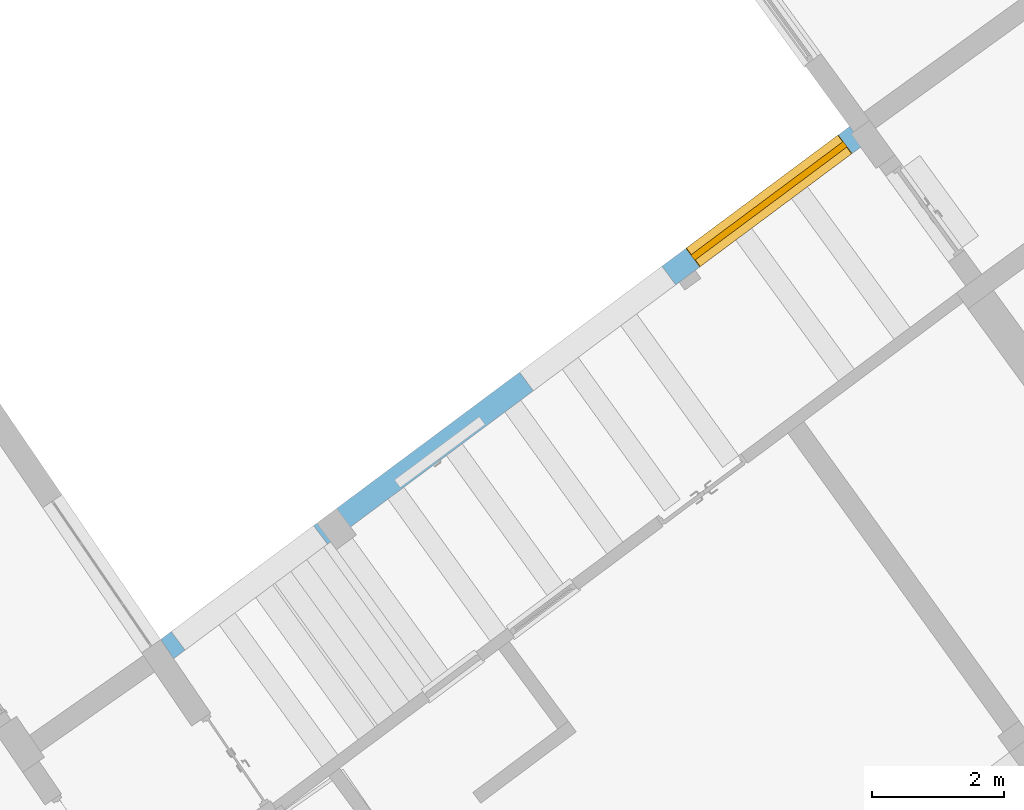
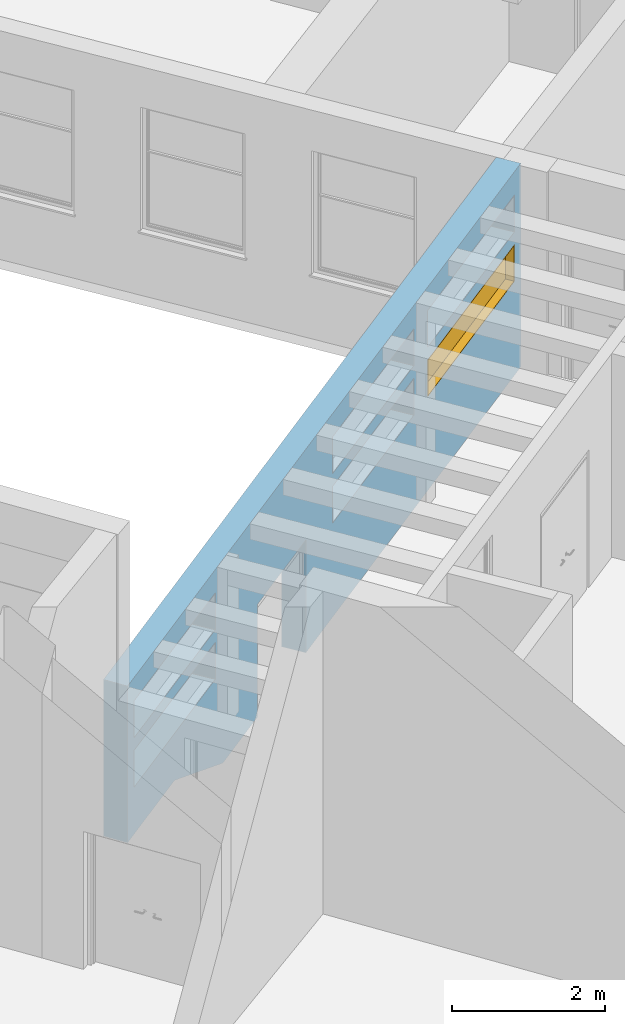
# One storey, part 141 of 157: 1 window, 7 openings, plus 1 element that does not belong to this part.
"""IFC2X3 building model written with IfcOpenShell, lengths in millimetres."""

import ifcopenshell
import ifcopenshell.guid

model = None  # the IFC model being written
_history = None  # IfcOwnerHistory: only IFC2X3 demands one
_inside = {}  # id of a spatial element -> (the spatial element, [elements in it])
_under = {}  # id of a project, library or spatial element -> (it, [spatial elements below it])
_declared = {}  # id of a project -> (the project, [libraries it declares])
_typed = {}  # id of a type object -> (the type object, [elements of that type])
_made_of = {}  # id of a material, layer set ... -> (it, [elements and type objects made of it])


def new_model(schema):
    """Start an empty IFC model of exactly this schema.

    Asked for "IFC4X3", IfcOpenShell would pick the latest addendum, in which some entities
    have other attributes; the version numbers below select the first issue.
    IFC2X3 requires an IfcOwnerHistory on every rooted entity: one is made here for all.
    """
    global model, _history
    if schema == "IFC4X3":
        model = ifcopenshell.file(schema_version=(4, 3, 0, 0))
    else:
        model = ifcopenshell.file(schema=schema)
    _inside.clear()
    _under.clear()
    _declared.clear()
    _typed.clear()
    _made_of.clear()
    _history = None
    if model.schema == "IFC2X3":
        org = make("IfcOrganization", Name="unknown")
        user = make(
            "IfcPersonAndOrganization",
            ThePerson=make("IfcPerson", FamilyName="unknown"),
            TheOrganization=org,
        )
        app = make(
            "IfcApplication",
            ApplicationDeveloper=org,
            Version="unknown",
            ApplicationFullName="unknown",
            ApplicationIdentifier="unknown",
        )
        _history = make(
            "IfcOwnerHistory",
            OwningUser=user,
            OwningApplication=app,
            ChangeAction="ADDED",
            CreationDate=0,
        )
    return model


def make(cls, **values):
    """One entity of the class cls with the attributes given. An attribute that is None is left unset."""
    return model.create_entity(
        cls, **{name: value for name, value in values.items() if value is not None}
    )


def entity(cls, *values):
    """Any entity or typed value of the class cls, its attributes in the order of the schema. None: left unset."""
    e = model.create_entity(cls)
    for i, value in enumerate(values):
        if value is not None:
            e[i] = value
    return e


def rooted(cls, **values):
    """An entity with a GlobalId (a new one), such as an element, a storey or a relation."""
    return make(cls, GlobalId=ifcopenshell.guid.new(), OwnerHistory=_history, **values)


def si_unit(unit_type, name, prefix=None):
    """IfcSIUnit, for example si_unit("LENGTHUNIT", "METRE", prefix="MILLI")."""
    return make("IfcSIUnit", UnitType=unit_type, Prefix=prefix, Name=name)


def converted_unit(unit_type, name, factor, base, dimensions=None, offset=None):
    """IfcConversionBasedUnit, such as the inch: factor (a typed value) times the base unit."""
    return make(
        "IfcConversionBasedUnit"
        if offset is None
        else "IfcConversionBasedUnitWithOffset",
        ConversionOffset=offset,
        Dimensions=None
        if dimensions is None
        else entity("IfcDimensionalExponents", *dimensions),
        UnitType=unit_type,
        Name=name,
        ConversionFactor=make(
            "IfcMeasureWithUnit", ValueComponent=factor, UnitComponent=base
        ),
    )


def derived_unit(unit_type, elements):
    """IfcDerivedUnit: a product of units, each with its exponent."""
    return make(
        "IfcDerivedUnit",
        Elements=[
            make("IfcDerivedUnitElement", Unit=unit, Exponent=power)
            for unit, power in elements
        ],
        UnitType=unit_type,
    )


def assignment(units):
    """IfcUnitAssignment: the units of a project."""
    return None if units is None else make("IfcUnitAssignment", Units=units)


def point(xyz):
    """IfcCartesianPoint."""
    return None if xyz is None else make("IfcCartesianPoint", Coordinates=xyz)


def direction(xyz):
    """IfcDirection."""
    return None if xyz is None else make("IfcDirection", DirectionRatios=xyz)


def frame(location, z_axis=None, x_axis=None):
    """IfcAxis2Placement3D, a coordinate frame: its origin and axes. An axis left out is left unset."""
    return make(
        "IfcAxis2Placement3D",
        Location=point(location),
        Axis=direction(z_axis),
        RefDirection=direction(x_axis),
    )


def frame_2d(location, x_axis=None):
    """IfcAxis2Placement2D, a coordinate frame in the plane: its origin and x axis."""
    return make(
        "IfcAxis2Placement2D", Location=point(location), RefDirection=direction(x_axis)
    )


def origin():
    """The frame at (0, 0, 0) with its axes left unset."""
    return frame((0.0, 0.0, 0.0))


def origin_2d_with_axis():
    """The frame at (0, 0) in the plane with the x axis (1, 0) written out."""
    return frame_2d((0.0, 0.0), x_axis=(1.0, 0.0))


def place(relative_to, where):
    """IfcLocalPlacement: puts the frame where relative to a parent placement (None: the world)."""
    return make(
        "IfcLocalPlacement", PlacementRelTo=relative_to, RelativePlacement=where
    )


def context(
    kind, dimensions, precision=None, world=None, true_north=None, identifier=None
):
    """IfcGeometricRepresentationContext, for example the 3D "Model" context."""
    return make(
        "IfcGeometricRepresentationContext",
        ContextIdentifier=identifier,
        ContextType=kind,
        CoordinateSpaceDimension=dimensions,
        Precision=precision,
        WorldCoordinateSystem=world,
        TrueNorth=true_north,
    )


def subcontext(parent, identifier, kind, view, scale=None):
    """IfcGeometricRepresentationSubContext, for example "Body" below "Model"."""
    return make(
        "IfcGeometricRepresentationSubContext",
        ContextIdentifier=identifier,
        ContextType=kind,
        ParentContext=parent,
        TargetScale=scale,
        TargetView=view,
    )


def project(units=None, contexts=None):
    """IfcProject with its units and contexts."""
    return rooted(
        "IfcProject",
        Name="project",
        RepresentationContexts=contexts,
        UnitsInContext=assignment(units),
    )


def spatial(cls, under=None, at=None, **own):
    """A site, building, storey or space (cls), placed at a placement, below another one or the project."""
    s = rooted(cls, ObjectPlacement=at, **own)
    if under is not None:
        _under.setdefault(under.id(), (under, []))[1].append(s)
    return s


def polyline(points):
    """IfcPolyline through the points."""
    return make("IfcPolyline", Points=[point(p) for p in points])


def profile(cls, at=None, kind="AREA", **sizes):
    """A parametric profile (cls). Its sizes go by their IFC names, for example OverallWidth=200.0."""
    return make(cls, ProfileType=kind, Position=at, **sizes)


def rectangle(**sizes):
    """IfcRectangleProfileDef."""
    return profile("IfcRectangleProfileDef", **sizes)


def outline(outer, holes=None, kind="AREA"):
    """IfcArbitraryClosedProfileDef: a profile drawn as a closed curve; with holes, ...WithVoids."""
    if holes is None:
        return make("IfcArbitraryClosedProfileDef", ProfileType=kind, OuterCurve=outer)
    return make(
        "IfcArbitraryProfileDefWithVoids",
        ProfileType=kind,
        OuterCurve=outer,
        InnerCurves=holes,
    )


def extrude(swept, where, along, depth):
    """IfcExtrudedAreaSolid: the profile swept, set in the frame where, extruded along a direction by depth."""
    return make(
        "IfcExtrudedAreaSolid",
        SweptArea=swept,
        Position=where,
        ExtrudedDirection=direction(along),
        Depth=depth,
    )


def faces_of(points, faces, orient=None, outer=None):
    """IfcFace entities. A face is a list of loops; a loop is a list of indices into points, from 0.

    orient and outer hold one flag for each loop. By default every Orientation is true, the
    first loop of a face is its IfcFaceOuterBound and the others are IfcFaceBound.
    """
    made = []
    for i, loops in enumerate(faces):
        bounds = []
        for j, loop in enumerate(loops):
            is_outer = j == 0 if outer is None else outer[i][j]
            bounds.append(
                make(
                    "IfcFaceOuterBound" if is_outer else "IfcFaceBound",
                    Bound=make("IfcPolyLoop", Polygon=[points[k] for k in loop]),
                    Orientation=True if orient is None else orient[i][j],
                )
            )
        made.append(make("IfcFace", Bounds=bounds))
    return made


def faceted_brep(points, faces, orient=None, outer=None, voids=None):
    """IfcFacetedBrep: a solid bounded by flat faces; with voids (closed shells), ...WithVoids."""
    shared = [point(p) for p in points]
    hull = make("IfcClosedShell", CfsFaces=faces_of(shared, faces, orient, outer))
    if voids is None:
        return make("IfcFacetedBrep", Outer=hull)
    return make(
        "IfcFacetedBrepWithVoids",
        Outer=hull,
        Voids=[
            make(cls, CfsFaces=faces_of(shared, fs, o, b)) for cls, fs, o, b in voids
        ],
    )


def shape(context_of_items, identifier, shape_type, items):
    """IfcShapeRepresentation: the items that make up one representation, for example the "Body"."""
    return make(
        "IfcShapeRepresentation",
        ContextOfItems=context_of_items,
        RepresentationIdentifier=identifier,
        RepresentationType=shape_type,
        Items=items,
    )


def source(mapping_origin, context_of_items, identifier, shape_type, items):
    """IfcRepresentationMap: a shape defined once, which mapped items show again and again."""
    return make(
        "IfcRepresentationMap",
        MappingOrigin=mapping_origin,
        MappedRepresentation=shape(context_of_items, identifier, shape_type, items),
    )


def transform(
    local_origin,
    x_axis=None,
    y_axis=None,
    z_axis=None,
    scale=None,
    scale2=None,
    scale3=None,
    uniform=True,
):
    """IfcCartesianTransformationOperator3D, or its non-uniform kind. x_axis, y_axis, z_axis: its Axis1, 2, 3."""
    if uniform:
        return make(
            "IfcCartesianTransformationOperator3D",
            Axis1=direction(x_axis),
            Axis2=direction(y_axis),
            LocalOrigin=point(local_origin),
            Scale=scale,
            Axis3=direction(z_axis),
        )
    return make(
        "IfcCartesianTransformationOperator3DnonUniform",
        Axis1=direction(x_axis),
        Axis2=direction(y_axis),
        LocalOrigin=point(local_origin),
        Scale=scale,
        Axis3=direction(z_axis),
        Scale2=scale2,
        Scale3=scale3,
    )


def mapped(mapping_source, mapping_target):
    """IfcMappedItem: shows the shape of a source again, moved by a transform."""
    return make(
        "IfcMappedItem", MappingSource=mapping_source, MappingTarget=mapping_target
    )


def material(Name=None, Category=None):
    """IfcMaterial."""
    return make("IfcMaterial", Name=Name, Category=Category)


def material_list(materials):
    """IfcMaterialList."""
    return make("IfcMaterialList", Materials=materials)


def layer(
    of_material, thickness, ventilated=None, Name=None, Category=None, Priority=None
):
    """IfcMaterialLayer: one layer of a wall or slab, of a material (None: an air gap)."""
    return make(
        "IfcMaterialLayer",
        Material=of_material,
        LayerThickness=thickness,
        IsVentilated=ventilated,
        Name=Name,
        Category=Category,
        Priority=Priority,
    )


def layer_set(layers, Name=None):
    """IfcMaterialLayerSet."""
    return make("IfcMaterialLayerSet", MaterialLayers=layers, LayerSetName=Name)


def made_of(thing, what):
    """Note that an element or type object is made of a material, layer set ...; save() writes the relation."""
    if what is not None:
        _made_of.setdefault(what.id(), (what, []))[1].append(thing)
    return thing


def type_object(cls, material=None, **own):
    """A type object (cls), such as IfcWallType, which elements share."""
    return made_of(rooted(cls, **own), material)


def type_shapes(of_type, sources):
    """Give a type object the sources (RepresentationMaps) that its elements show as mapped items."""
    of_type.RepresentationMaps = sources


def element(
    cls,
    number,
    at=None,
    inside=None,
    cuts=None,
    type_object=None,
    material=None,
    context=None,
    identifier="Body",
    shape_type=None,
    held_by="IfcProductDefinitionShape",
    body=None,
    shapes=None,
    **own,
):
    """One element of the class cls, such as IfcWall. Its Tag is "e" and its number.

    at: its placement. inside: the storey or other place that contains it. cuts: it is an
    opening in that element (IfcRelVoidsElement). A single representation is given by context,
    identifier, shape_type and body (its items); several are given by shapes. held_by: the class
    of the entity that holds the representations. save() writes the other relations.
    """
    e = rooted(cls, Tag="e%d" % number, ObjectPlacement=at, **own)
    if body is not None:
        shapes = [shape(context, identifier, shape_type, body)]
    if shapes is not None:
        e.Representation = make(held_by, Representations=shapes)
    if inside is not None:
        _inside.setdefault(inside.id(), (inside, []))[1].append(e)
    if cuts is not None:
        rooted(
            "IfcRelVoidsElement", RelatingBuildingElement=cuts, RelatedOpeningElement=e
        )
    if type_object is not None:
        _typed.setdefault(type_object.id(), (type_object, []))[1].append(e)
    return made_of(e, material)


def fill(opening, filler):
    """IfcRelFillsElement: the door or window that sits in an opening."""
    return rooted(
        "IfcRelFillsElement",
        RelatingOpeningElement=opening,
        RelatedBuildingElement=filler,
    )


def aggregate(whole, parts):
    """IfcRelAggregates: a whole, such as a stair, and the parts it consists of."""
    return rooted("IfcRelAggregates", RelatingObject=whole, RelatedObjects=parts)


def save(model, path):
    """Write the relations noted so far, then the file.

    IfcRelAggregates (storeys below a building ...), IfcRelContainedInSpatialStructure (elements
    in a storey), IfcRelDefinesByType, IfcRelAssociatesMaterial and IfcRelDeclares: one each for
    every whole, place, type object, material and project.
    """
    for whole, parts in _under.values():
        aggregate(whole, parts)
    for where, things in _inside.values():
        rooted(
            "IfcRelContainedInSpatialStructure",
            RelatedElements=things,
            RelatingStructure=where,
        )
    for kind, things in _typed.values():
        rooted("IfcRelDefinesByType", RelatedObjects=things, RelatingType=kind)
    for what, things in _made_of.values():
        rooted("IfcRelAssociatesMaterial", RelatedObjects=things, RelatingMaterial=what)
    for by, libraries in _declared.values():
        rooted("IfcRelDeclares", RelatingContext=by, RelatedDefinitions=libraries)
    model.write(path)


model = new_model("IFC2X3")

# Units and contexts
model_context = context("Model", 3, precision=0.01, world=origin(), true_north=direction((6.123031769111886e-17, 1.0)))
body_context = subcontext(model_context, "Body", "Model", "MODEL_VIEW")
ifc_project = project(units=[si_unit("LENGTHUNIT", "METRE", prefix="MILLI"), si_unit("AREAUNIT", "SQUARE_METRE"), si_unit("VOLUMEUNIT", "CUBIC_METRE"), converted_unit("PLANEANGLEUNIT", "DEGREE", entity("IfcRatioMeasure", 0.017453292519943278), si_unit("PLANEANGLEUNIT", "RADIAN"), dimensions=[0, 0, 0, 0, 0, 0, 0]), si_unit("MASSUNIT", "GRAM", prefix="KILO"), derived_unit("MASSDENSITYUNIT", [(si_unit("MASSUNIT", "GRAM", prefix="KILO"), 1), (si_unit("LENGTHUNIT", "METRE"), -3)]), derived_unit("MOMENTOFINERTIAUNIT", [(si_unit("LENGTHUNIT", "METRE"), 4)]), si_unit("TIMEUNIT", "SECOND"), si_unit("FREQUENCYUNIT", "HERTZ"), si_unit("THERMODYNAMICTEMPERATUREUNIT", "DEGREE_CELSIUS"), derived_unit("THERMALTRANSMITTANCEUNIT", [(si_unit("MASSUNIT", "GRAM", prefix="KILO"), 1), (si_unit("THERMODYNAMICTEMPERATUREUNIT", "KELVIN"), -1), (si_unit("TIMEUNIT", "SECOND"), -3)]), derived_unit("THERMALCONDUCTANCEUNIT", [(si_unit("MASSUNIT", "GRAM", prefix="KILO"), 1), (si_unit("LENGTHUNIT", "METRE"), 1), (si_unit("THERMODYNAMICTEMPERATUREUNIT", "KELVIN"), -1), (si_unit("TIMEUNIT", "SECOND"), -3)]), derived_unit("VOLUMETRICFLOWRATEUNIT", [(si_unit("LENGTHUNIT", "METRE"), 3), (si_unit("TIMEUNIT", "SECOND"), -1)]), derived_unit("MASSFLOWRATEUNIT", [(si_unit("MASSUNIT", "GRAM", prefix="KILO"), 1), (si_unit("TIMEUNIT", "SECOND"), -1)]), derived_unit("ROTATIONALFREQUENCYUNIT", [(si_unit("TIMEUNIT", "SECOND"), -1)]), si_unit("ELECTRICCURRENTUNIT", "AMPERE"), si_unit("ELECTRICVOLTAGEUNIT", "VOLT"), si_unit("POWERUNIT", "WATT"), converted_unit("FORCEUNIT", "KIP", entity("IfcRatioMeasure", 2.088543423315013e-05), si_unit("FORCEUNIT", "NEWTON"), dimensions=[1, 1, -2, 0, 0, 0, 0]), si_unit("ILLUMINANCEUNIT", "LUX"), si_unit("LUMINOUSFLUXUNIT", "LUMEN"), si_unit("LUMINOUSINTENSITYUNIT", "CANDELA"), derived_unit("USERDEFINED", [(si_unit("MASSUNIT", "GRAM", prefix="KILO"), -1), (si_unit("LENGTHUNIT", "METRE"), -2), (si_unit("TIMEUNIT", "SECOND"), 3), (si_unit("LUMINOUSFLUXUNIT", "LUMEN"), 1)]), derived_unit("USERDEFINED", [(si_unit("MASSUNIT", "GRAM", prefix="KILO"), 1), (si_unit("LENGTHUNIT", "METRE"), 3), (si_unit("TIMEUNIT", "SECOND"), -3), (si_unit("ELECTRICCURRENTUNIT", "AMPERE"), -2)]), derived_unit("USERDEFINED", [(si_unit("LENGTHUNIT", "METRE"), 2), (si_unit("TIMEUNIT", "SECOND"), -2)]), derived_unit("SOUNDPOWERUNIT", [(si_unit("MASSUNIT", "GRAM", prefix="KILO"), 1), (si_unit("LENGTHUNIT", "METRE"), 2), (si_unit("TIMEUNIT", "SECOND"), -3)]), derived_unit("SOUNDPRESSUREUNIT", [(si_unit("MASSUNIT", "GRAM", prefix="KILO"), 1), (si_unit("LENGTHUNIT", "METRE"), -1), (si_unit("TIMEUNIT", "SECOND"), -2)]), derived_unit("LINEARVELOCITYUNIT", [(si_unit("LENGTHUNIT", "METRE"), 1), (si_unit("TIMEUNIT", "SECOND"), -1)]), si_unit("PRESSUREUNIT", "PASCAL"), derived_unit("USERDEFINED", [(si_unit("LENGTHUNIT", "METRE"), -2), (si_unit("MASSUNIT", "GRAM", prefix="KILO"), 1), (si_unit("TIMEUNIT", "SECOND"), -2)]), derived_unit("LINEARFORCEUNIT", [(si_unit("MASSUNIT", "GRAM", prefix="KILO"), 1), (si_unit("LENGTHUNIT", "METRE"), 1), (si_unit("TIMEUNIT", "SECOND"), -2), (si_unit("LENGTHUNIT", "METRE"), -1)]), derived_unit("PLANARFORCEUNIT", [(si_unit("MASSUNIT", "GRAM", prefix="KILO"), 1), (si_unit("LENGTHUNIT", "METRE"), 1), (si_unit("TIMEUNIT", "SECOND"), -2), (si_unit("LENGTHUNIT", "METRE"), -2)]), derived_unit("SPECIFICHEATCAPACITYUNIT", [(si_unit("LENGTHUNIT", "METRE"), 2), (si_unit("TIMEUNIT", "SECOND"), -2), (si_unit("THERMODYNAMICTEMPERATUREUNIT", "KELVIN"), -1)]), derived_unit("VAPORPERMEABILITYUNIT", [(si_unit("TIMEUNIT", "SECOND"), 1), (si_unit("LENGTHUNIT", "METRE"), -1)]), derived_unit("DYNAMICVISCOSITYUNIT", [(si_unit("MASSUNIT", "GRAM", prefix="KILO"), 1), (si_unit("LENGTHUNIT", "METRE"), -1), (si_unit("TIMEUNIT", "SECOND"), -1)]), derived_unit("THERMALEXPANSIONCOEFFICIENTUNIT", [(si_unit("THERMODYNAMICTEMPERATUREUNIT", "KELVIN"), -1)])], contexts=[model_context])

# Site, building, storey
site_placement = place(None, frame((0.0, 0.0, 0.0), z_axis=(0.0, 0.0, 1.0), x_axis=(0.8191520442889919, 0.5735764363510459, 0.0)))
site = spatial("IfcSite", under=ifc_project, at=site_placement, Name="Default", CompositionType="ELEMENT")
building_placement = place(site_placement, origin())
building = spatial("IfcBuilding", under=site, at=building_placement, CompositionType="ELEMENT")
storey_placement = place(building_placement, origin())
storey = spatial("IfcBuildingStorey", under=building, at=storey_placement, Name="1.EG +0.00", CompositionType="ELEMENT", Elevation=-4.331468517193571e-12)

# Wall, openings, window
ifc_material_1 = material(Name="Analytical Wall Surface_CJC")
ifc_layer = layer(ifc_material_1, 350.0)
ifc_layer_set = layer_set([ifc_layer], Name="Basic Wall:Wand_Innen_35")
wall_type = type_object("IfcWallType", Name="Basic Wall:Wand_Innen_35", PredefinedType="STANDARD", material=ifc_layer_set)
wall_placement = place(storey_placement, frame((-204101.05348576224, 166996.005670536, -750.0), z_axis=(0.0, 0.0, 1.0), x_axis=(0.9995749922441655, 0.029151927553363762, 0.0)))
wall = element("IfcWall", 1, at=wall_placement, inside=storey, type_object=wall_type, Name="Basic Wall:Wand_Innen_35", ObjectType="Basic Wall:Wand_Innen_35", context=body_context, shape_type="Brep", body=[
    faceted_brep([(12984.138347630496, -175.0, 0.0), (12984.138347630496, -175.0, 3250.0), (11930.363742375, -175.0, 3250.0), (11630.346839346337, -175.0, 3250.0), (10880.30458177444, -175.0, 3250.0), (10580.287678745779, -175.0, 3250.0), (9815.893972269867, -175.0, 3250.0), (9515.854710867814, -175.0, 3250.0), (8715.750013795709, -175.0, 3250.0), (8415.710752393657, -175.0, 3250.0), (7615.606055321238, -175.0, 3250.0), (7315.566793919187, -175.0, 3250.0), (6533.797199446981, -175.0, 3250.0), (6233.757938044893, -175.0, 3250.0), (5433.653240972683, -175.0, 3250.0), (5133.613979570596, -175.0, 3250.0), (4333.509282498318, -175.0, 3250.0), (4033.4700210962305, -175.0, 3250.0), (3255.528447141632, -175.0, 3250.0), (2955.5004618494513, -175.0, 3250.0), (2205.5288961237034, -175.0, 3250.0), (1905.500757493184, -175.0, 3250.0), (1155.3068251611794, -175.0, 3250.0), (855.2816970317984, -175.0, 3250.0), (0.0, -175.0, 3250.0), (0.0, -175.0, 750.0), (1550.1638463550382, -175.0, 750.0), (3145.5153249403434, -175.0, 0.0), (4284.138347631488, -175.0, 0.0), (4284.138347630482, -175.0, 1800.0), (5884.138347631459, -175.0, 1800.0), (5884.138347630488, -175.0, 0.0), (9515.854710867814, -175.0, 0.0), (9815.893972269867, -175.0, 0.0), (2895.1186250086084, -175.0, 2090.0), (2895.1186250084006, -175.0, 1500.0), (215.11862500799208, -175.0, 1500.0), (215.11862500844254, -175.0, 2090.0), (9451.157462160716, -175.0, 2090.0), (9451.157462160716, -175.0, 1500.0), (6771.157462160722, -175.0, 1500.0), (6771.157462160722, -175.0, 2090.0), (12771.942690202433, -175.0, 2090.0), (12771.942690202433, -175.0, 1500.0), (9901.942690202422, -175.0, 1500.0), (9901.942690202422, -175.0, 2090.0), (12771.942690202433, -175.0, 2880.0), (12771.942690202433, -175.0, 2290.0), (9901.942690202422, -175.0, 2290.0), (9901.942690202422, -175.0, 2880.0), (9451.157462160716, -175.0, 2880.0), (9451.157462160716, -175.0, 2290.0), (6771.157462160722, -175.0, 2290.0), (6771.157462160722, -175.0, 2880.0), (2895.1186250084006, -175.0, 2880.0), (2895.1186250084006, -175.0, 2290.0), (215.1186250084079, -175.0, 2290.0), (215.1186250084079, -175.0, 2880.0), (12984.138347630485, 175.0, 3250.0), (12984.138347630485, 175.0, 0.0), (5884.138347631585, 175.0, 0.0), (5884.138347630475, 175.0, 1800.0), (4284.138347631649, 175.0, 1800.0), (4284.13834763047, 175.0, 0.0), (3145.515324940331, 175.0, 0.0), (1550.1638463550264, 175.0, 750.0), (14.668675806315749, 175.0, 750.0), (14.668675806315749, 175.0, 3250.0), (2895.118625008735, 175.0, 1500.0), (2895.118625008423, 175.0, 2090.0), (215.11862500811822, 175.0, 2090.0), (215.1186250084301, 175.0, 1500.0), (9451.157462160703, 175.0, 1500.0), (9451.157462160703, 175.0, 2090.0), (6771.15746216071, 175.0, 2090.0), (6771.15746216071, 175.0, 1500.0), (12771.942690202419, 175.0, 1500.0), (12771.942690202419, 175.0, 2090.0), (9901.94269020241, 175.0, 2090.0), (9901.94269020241, 175.0, 1500.0), (12771.942690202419, 175.0, 2290.0), (12771.942690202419, 175.0, 2880.0), (9901.94269020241, 175.0, 2880.0), (9901.94269020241, 175.0, 2290.0), (9451.157462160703, 175.0, 2290.0), (9451.157462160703, 175.0, 2880.0), (6771.15746216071, 175.0, 2880.0), (6771.15746216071, 175.0, 2290.0), (2895.1186250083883, 175.0, 2290.0), (2895.1186250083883, 175.0, 2880.0), (215.11862500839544, 175.0, 2880.0), (215.11862500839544, 175.0, 2290.0)], [[[0, 1, 2, 3, 4, 5, 6, 7, 8, 9, 10, 11, 12, 13, 14, 15, 16, 17, 18, 19, 20, 21, 22, 23, 24, 25, 26, 27, 28, 29, 30, 31, 32, 33], [34, 35, 36, 37], [38, 39, 40, 41], [42, 43, 44, 45], [46, 47, 48, 49], [50, 51, 52, 53], [54, 55, 56, 57]], [[58, 59, 60, 61, 62, 63, 64, 65, 66, 67], [68, 69, 70, 71], [72, 73, 74, 75], [76, 77, 78, 79], [80, 81, 82, 83], [84, 85, 86, 87], [88, 89, 90, 91]], [[25, 24, 67, 66]], [[27, 64, 63, 28]], [[1, 0, 59, 58]], [[24, 23, 22, 21, 20, 19, 18, 17, 16, 15, 14, 13, 12, 11, 10, 9, 8, 7, 6, 5, 4, 3, 2, 1, 58, 67]], [[26, 25, 66, 65]], [[27, 26, 65, 64]], [[62, 29, 28, 63]], [[29, 62, 61, 30]], [[30, 61, 60, 31]], [[68, 35, 34, 69]], [[69, 34, 37, 70]], [[70, 37, 36, 71]], [[35, 68, 71, 36]], [[73, 72, 39, 38]], [[74, 73, 38, 41]], [[75, 74, 41, 40]], [[72, 75, 40, 39]], [[77, 76, 43, 42]], [[78, 77, 42, 45]], [[79, 78, 45, 44]], [[76, 79, 44, 43]], [[81, 80, 47, 46]], [[82, 81, 46, 49]], [[83, 82, 49, 48]], [[80, 83, 48, 47]], [[85, 84, 51, 50]], [[86, 85, 50, 53]], [[87, 86, 53, 52]], [[84, 87, 52, 51]], [[89, 88, 55, 54]], [[90, 89, 54, 57]], [[91, 90, 57, 56]], [[88, 91, 56, 55]], [[59, 0, 33, 32, 31, 60]]]),
])
opening_1_placement = place(wall_placement, frame((5884.138347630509, 175.0, -400.0)))
element("IfcOpeningElement", 2, at=opening_1_placement, cuts=wall, Name="M_Door-Passage-Double-Flush:150x210:1", ObjectType="Opening", context=body_context, shape_type="SweptSolid", body=[
    extrude(rectangle(XDim=2200.0, YDim=1599.999999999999, at=frame_2d((1100.0, 799.9999999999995), x_axis=(1.0, 0.0))), frame((0.0, 0.0, 0.0), z_axis=(0.0, -1.0, 0.0), x_axis=(0.0, 0.0, 1.0)), (0.0, 0.0, 1.0), 350.0),
])
opening_2_placement = place(wall_placement, frame((2895.1186250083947, 175.0, 1500.0)))
element("IfcOpeningElement", 3, at=opening_2_placement, cuts=wall, Name="WINDOW_Glass_Block:WINDOW_Glass_Block_14x3:1", ObjectType="Opening", context=body_context, shape_type="SweptSolid", body=[
    extrude(rectangle(XDim=589.9999999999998, YDim=2679.999999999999, at=frame_2d((294.99999999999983, 1339.9999999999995), x_axis=(1.0, 0.0))), frame((0.0, 0.0, 0.0), z_axis=(0.0, -1.0, 0.0), x_axis=(0.0, 0.0, 1.0)), (0.0, 0.0, 1.0), 350.0),
])
opening_3_placement = place(wall_placement, frame((9451.157462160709, 175.0, 1500.0)))
element("IfcOpeningElement", 4, at=opening_3_placement, cuts=wall, Name="WINDOW_Glass_Block:WINDOW_Glass_Block_14x3:1", ObjectType="Opening", context=body_context, shape_type="SweptSolid", body=[
    extrude(rectangle(XDim=589.9999999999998, YDim=2679.999999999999, at=frame_2d((294.99999999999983, 1339.9999999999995), x_axis=(1.0, 0.0))), frame((0.0, 0.0, 0.0), z_axis=(0.0, -1.0, 0.0), x_axis=(0.0, 0.0, 1.0)), (0.0, 0.0, 1.0), 350.0),
])
opening_4_placement = place(wall_placement, frame((12771.942690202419, 175.0, 1500.0)))
opening_4 = element("IfcOpeningElement", 5, at=opening_4_placement, cuts=wall, Name="WINDOW_Glass_Block:WINDOW_Glass_Block_15x3:1", ObjectType="Opening", context=body_context, shape_type="SweptSolid", body=[
    extrude(rectangle(XDim=589.9999999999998, YDim=2869.9999999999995, at=frame_2d((294.99999999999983, 1435.0000000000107), x_axis=(1.0, 0.0))), frame((0.0, 0.0, 0.0), z_axis=(0.0, -1.0, 0.0), x_axis=(0.0, 0.0, 1.0)), (0.0, 0.0, 1.0), 350.0),
])
opening_5_placement = place(wall_placement, frame((2895.1186250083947, 175.0, 2290.0)))
element("IfcOpeningElement", 6, at=opening_5_placement, cuts=wall, Name="WINDOW_Glass_Block:WINDOW_Glass_Block_14x3:1", ObjectType="Opening", context=body_context, shape_type="SweptSolid", body=[
    extrude(rectangle(XDim=589.9999999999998, YDim=2679.999999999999, at=frame_2d((294.99999999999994, 1339.9999999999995), x_axis=(1.0, 0.0))), frame((0.0, 0.0, 0.0), z_axis=(0.0, -1.0, 0.0), x_axis=(0.0, 0.0, 1.0)), (0.0, 0.0, 1.0), 350.0),
])
opening_6_placement = place(wall_placement, frame((9451.157462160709, 175.0, 2290.0)))
element("IfcOpeningElement", 7, at=opening_6_placement, cuts=wall, Name="WINDOW_Glass_Block:WINDOW_Glass_Block_14x3:1", ObjectType="Opening", context=body_context, shape_type="SweptSolid", body=[
    extrude(rectangle(XDim=589.9999999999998, YDim=2679.999999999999, at=frame_2d((294.99999999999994, 1339.9999999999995), x_axis=(1.0, 0.0))), frame((0.0, 0.0, 0.0), z_axis=(0.0, -1.0, 0.0), x_axis=(0.0, 0.0, 1.0)), (0.0, 0.0, 1.0), 350.0),
])
opening_7_placement = place(wall_placement, frame((12771.942690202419, 175.0, 2290.0)))
element("IfcOpeningElement", 8, at=opening_7_placement, cuts=wall, Name="WINDOW_Glass_Block:WINDOW_Glass_Block_15x3:1", ObjectType="Opening", context=body_context, shape_type="SweptSolid", body=[
    extrude(rectangle(XDim=589.9999999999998, YDim=2869.9999999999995, at=frame_2d((294.99999999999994, 1435.0000000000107), x_axis=(1.0, 0.0))), frame((0.0, 0.0, 0.0), z_axis=(0.0, -1.0, 0.0), x_axis=(0.0, 0.0, 1.0)), (0.0, 0.0, 1.0), 350.0),
])
ifc_material_2 = material(Name="Glass")
ifc_material_3 = material(Name="Wood")
ifc_material_list = material_list([ifc_material_2, ifc_material_3])
window_style = type_object("IfcWindowStyle", Name="WINDOW_Glass_Block:WINDOW_Glass_Block_15x3", ConstructionType="NOTDEFINED", OperationType="NOTDEFINED", ParameterTakesPrecedence=False, Sizeable=False, material=ifc_material_list)
shared_shape = source(origin(), body_context, "Body", "SweptSolid", [
    extrude(rectangle(XDim=190.0000000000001, YDim=100.0, at=origin_2d_with_axis()), frame((2575.0, 175.0, 200.0), z_axis=(0.0, 0.0, 1.0), x_axis=(-1.0, 0.0, 0.0)), (0.0, 0.0, 1.0), 189.99999999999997),
    extrude(rectangle(XDim=190.0, YDim=100.0, at=frame_2d((-6.394884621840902e-14, 0.0), x_axis=(1.0, 0.0))), frame((2385.0, 175.0, 200.0), z_axis=(0.0, 0.0, 1.0), x_axis=(-1.0, 0.0, 0.0)), (0.0, 0.0, 1.0), 189.99999999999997),
    extrude(rectangle(XDim=190.0, YDim=100.0, at=frame_2d((6.394884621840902e-14, 0.0), x_axis=(1.0, 0.0))), frame((2195.0, 175.0, 200.0), z_axis=(0.0, 0.0, 1.0), x_axis=(-1.0, 0.0, 0.0)), (0.0, 0.0, 1.0), 189.99999999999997),
    extrude(rectangle(XDim=190.0, YDim=100.0, at=frame_2d((-6.394884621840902e-14, 0.0), x_axis=(1.0, 0.0))), frame((2005.0, 175.0, 200.0), z_axis=(0.0, 0.0, 1.0), x_axis=(-1.0, 0.0, 0.0)), (0.0, 0.0, 1.0), 189.99999999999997),
    extrude(rectangle(XDim=189.99999999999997, YDim=100.0, at=origin_2d_with_axis()), frame((1815.0, 175.0, 200.0), z_axis=(0.0, 0.0, 1.0), x_axis=(-1.0, 0.0, 0.0)), (0.0, 0.0, 1.0), 189.99999999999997),
    extrude(rectangle(XDim=190.0, YDim=100.0, at=frame_2d((-2.1316282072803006e-14, 0.0), x_axis=(1.0, 0.0))), frame((1625.0, 175.0, 200.0), z_axis=(0.0, 0.0, 1.0), x_axis=(-1.0, 0.0, 0.0)), (0.0, 0.0, 1.0), 189.99999999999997),
    extrude(rectangle(XDim=190.00000000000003, YDim=100.0, at=origin_2d_with_axis()), frame((1435.0, 175.0, 200.0), z_axis=(0.0, 0.0, 1.0), x_axis=(-1.0, 0.0, 0.0)), (0.0, 0.0, 1.0), 189.99999999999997),
    extrude(rectangle(XDim=190.0, YDim=100.0, at=frame_2d((-2.1316282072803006e-14, 0.0), x_axis=(1.0, 0.0))), frame((1245.0, 175.0, 200.0), z_axis=(0.0, 0.0, 1.0), x_axis=(-1.0, 0.0, 0.0)), (0.0, 0.0, 1.0), 189.99999999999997),
    extrude(rectangle(XDim=190.0, YDim=100.0, at=frame_2d((-2.1316282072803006e-14, 0.0), x_axis=(1.0, 0.0))), frame((1055.0, 175.0, 200.0), z_axis=(0.0, 0.0, 1.0), x_axis=(-1.0, 0.0, 0.0)), (0.0, 0.0, 1.0), 189.99999999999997),
    extrude(rectangle(XDim=190.0, YDim=100.0, at=frame_2d((-6.394884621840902e-14, 0.0), x_axis=(1.0, 0.0))), frame((865.0, 175.0, 200.0), z_axis=(0.0, 0.0, 1.0), x_axis=(-1.0, 0.0, 0.0)), (0.0, 0.0, 1.0), 189.99999999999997),
    extrude(rectangle(XDim=190.0, YDim=100.0, at=frame_2d((6.394884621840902e-14, 0.0), x_axis=(1.0, 0.0))), frame((675.0, 175.0, 200.0), z_axis=(0.0, 0.0, 1.0), x_axis=(-1.0, 0.0, 0.0)), (0.0, 0.0, 1.0), 189.99999999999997),
    extrude(rectangle(XDim=190.0, YDim=100.0, at=frame_2d((-6.394884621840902e-14, 0.0), x_axis=(1.0, 0.0))), frame((485.0, 175.0, 200.0), z_axis=(0.0, 0.0, 1.0), x_axis=(-1.0, 0.0, 0.0)), (0.0, 0.0, 1.0), 189.99999999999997),
    extrude(rectangle(XDim=190.0, YDim=100.0, at=frame_2d((-6.394884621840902e-14, 0.0), x_axis=(1.0, 0.0))), frame((295.0, 175.0, 200.0), z_axis=(0.0, 0.0, 1.0), x_axis=(-1.0, 0.0, 0.0)), (0.0, 0.0, 1.0), 189.99999999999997),
    extrude(rectangle(XDim=190.0000000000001, YDim=100.0, at=origin_2d_with_axis()), frame((2765.0, 175.0, 200.0), z_axis=(0.0, 0.0, 1.0), x_axis=(-1.0, 0.0, 0.0)), (0.0, 0.0, 1.0), 189.99999999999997),
    extrude(rectangle(XDim=190.0000000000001, YDim=100.0, at=origin_2d_with_axis()), frame((105.0, 175.0, 200.0), z_axis=(0.0, 0.0, 1.0), x_axis=(-1.0, 0.0, 0.0)), (0.0, 0.0, 1.0), 189.99999999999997),
    extrude(rectangle(XDim=190.0000000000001, YDim=100.0, at=origin_2d_with_axis()), frame((2575.0, 175.0, 390.0), z_axis=(0.0, 0.0, 1.0), x_axis=(-1.0, 0.0, 0.0)), (0.0, 0.0, 1.0), 190.0000000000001),
    extrude(rectangle(XDim=190.0, YDim=100.0, at=frame_2d((-6.394884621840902e-14, 0.0), x_axis=(1.0, 0.0))), frame((2385.0, 175.0, 390.0), z_axis=(0.0, 0.0, 1.0), x_axis=(-1.0, 0.0, 0.0)), (0.0, 0.0, 1.0), 190.0000000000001),
    extrude(rectangle(XDim=190.0, YDim=100.0, at=frame_2d((6.394884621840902e-14, 0.0), x_axis=(1.0, 0.0))), frame((2195.0, 175.0, 390.0), z_axis=(0.0, 0.0, 1.0), x_axis=(-1.0, 0.0, 0.0)), (0.0, 0.0, 1.0), 190.0000000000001),
    extrude(rectangle(XDim=190.0, YDim=100.0, at=frame_2d((-6.394884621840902e-14, 0.0), x_axis=(1.0, 0.0))), frame((2005.0, 175.0, 390.0), z_axis=(0.0, 0.0, 1.0), x_axis=(-1.0, 0.0, 0.0)), (0.0, 0.0, 1.0), 190.0000000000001),
    extrude(rectangle(XDim=189.99999999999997, YDim=100.0, at=origin_2d_with_axis()), frame((1815.0, 175.0, 390.0), z_axis=(0.0, 0.0, 1.0), x_axis=(-1.0, 0.0, 0.0)), (0.0, 0.0, 1.0), 190.0000000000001),
    extrude(rectangle(XDim=190.0, YDim=100.0, at=frame_2d((-2.1316282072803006e-14, 0.0), x_axis=(1.0, 0.0))), frame((1625.0, 175.0, 390.0), z_axis=(0.0, 0.0, 1.0), x_axis=(-1.0, 0.0, 0.0)), (0.0, 0.0, 1.0), 190.0000000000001),
    extrude(rectangle(XDim=190.00000000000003, YDim=100.0, at=origin_2d_with_axis()), frame((1435.0, 175.0, 390.0), z_axis=(0.0, 0.0, 1.0), x_axis=(-1.0, 0.0, 0.0)), (0.0, 0.0, 1.0), 190.0000000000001),
    extrude(rectangle(XDim=190.0, YDim=100.0, at=frame_2d((-2.1316282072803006e-14, 0.0), x_axis=(1.0, 0.0))), frame((1245.0, 175.0, 390.0), z_axis=(0.0, 0.0, 1.0), x_axis=(-1.0, 0.0, 0.0)), (0.0, 0.0, 1.0), 190.0000000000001),
    extrude(rectangle(XDim=190.0, YDim=100.0, at=frame_2d((-2.1316282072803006e-14, 0.0), x_axis=(1.0, 0.0))), frame((1055.0, 175.0, 390.0), z_axis=(0.0, 0.0, 1.0), x_axis=(-1.0, 0.0, 0.0)), (0.0, 0.0, 1.0), 190.0000000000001),
    extrude(rectangle(XDim=190.0, YDim=100.0, at=frame_2d((-6.394884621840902e-14, 0.0), x_axis=(1.0, 0.0))), frame((865.0, 175.0, 390.0), z_axis=(0.0, 0.0, 1.0), x_axis=(-1.0, 0.0, 0.0)), (0.0, 0.0, 1.0), 190.0000000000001),
    extrude(rectangle(XDim=190.0, YDim=100.0, at=frame_2d((6.394884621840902e-14, 0.0), x_axis=(1.0, 0.0))), frame((675.0, 175.0, 390.0), z_axis=(0.0, 0.0, 1.0), x_axis=(-1.0, 0.0, 0.0)), (0.0, 0.0, 1.0), 190.0000000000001),
    extrude(rectangle(XDim=190.0, YDim=100.0, at=frame_2d((-6.394884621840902e-14, 0.0), x_axis=(1.0, 0.0))), frame((485.0, 175.0, 390.0), z_axis=(0.0, 0.0, 1.0), x_axis=(-1.0, 0.0, 0.0)), (0.0, 0.0, 1.0), 190.0000000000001),
    extrude(rectangle(XDim=190.0, YDim=100.0, at=frame_2d((-6.394884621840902e-14, 0.0), x_axis=(1.0, 0.0))), frame((295.0, 175.0, 390.0), z_axis=(0.0, 0.0, 1.0), x_axis=(-1.0, 0.0, 0.0)), (0.0, 0.0, 1.0), 190.0000000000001),
    extrude(rectangle(XDim=190.0000000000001, YDim=100.0, at=origin_2d_with_axis()), frame((2765.0, 175.0, 390.0), z_axis=(0.0, 0.0, 1.0), x_axis=(-1.0, 0.0, 0.0)), (0.0, 0.0, 1.0), 190.0000000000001),
    extrude(rectangle(XDim=190.0000000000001, YDim=100.0, at=origin_2d_with_axis()), frame((105.0, 175.0, 390.0), z_axis=(0.0, 0.0, 1.0), x_axis=(-1.0, 0.0, 0.0)), (0.0, 0.0, 1.0), 190.0000000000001),
    extrude(rectangle(XDim=190.0000000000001, YDim=100.0, at=origin_2d_with_axis()), frame((2575.0, 175.0, 10.0), z_axis=(0.0, 0.0, 1.0), x_axis=(-1.0, 0.0, 0.0)), (0.0, 0.0, 1.0), 189.99999999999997),
    extrude(rectangle(XDim=190.0, YDim=100.0, at=frame_2d((-6.394884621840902e-14, 0.0), x_axis=(1.0, 0.0))), frame((2385.0, 175.0, 10.0), z_axis=(0.0, 0.0, 1.0), x_axis=(-1.0, 0.0, 0.0)), (0.0, 0.0, 1.0), 189.99999999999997),
    extrude(rectangle(XDim=190.0, YDim=100.0, at=frame_2d((6.394884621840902e-14, 0.0), x_axis=(1.0, 0.0))), frame((2195.0, 175.0, 10.0), z_axis=(0.0, 0.0, 1.0), x_axis=(-1.0, 0.0, 0.0)), (0.0, 0.0, 1.0), 189.99999999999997),
    extrude(rectangle(XDim=190.0, YDim=100.0, at=frame_2d((-6.394884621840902e-14, 0.0), x_axis=(1.0, 0.0))), frame((2005.0, 175.0, 10.0), z_axis=(0.0, 0.0, 1.0), x_axis=(-1.0, 0.0, 0.0)), (0.0, 0.0, 1.0), 189.99999999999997),
    extrude(rectangle(XDim=189.99999999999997, YDim=100.0, at=origin_2d_with_axis()), frame((1815.0, 175.0, 10.0), z_axis=(0.0, 0.0, 1.0), x_axis=(-1.0, 0.0, 0.0)), (0.0, 0.0, 1.0), 189.99999999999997),
    extrude(rectangle(XDim=190.0, YDim=100.0, at=frame_2d((-2.1316282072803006e-14, 0.0), x_axis=(1.0, 0.0))), frame((1625.0, 175.0, 10.0), z_axis=(0.0, 0.0, 1.0), x_axis=(-1.0, 0.0, 0.0)), (0.0, 0.0, 1.0), 189.99999999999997),
    extrude(rectangle(XDim=190.00000000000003, YDim=100.0, at=origin_2d_with_axis()), frame((1435.0, 175.0, 10.0), z_axis=(0.0, 0.0, 1.0), x_axis=(-1.0, 0.0, 0.0)), (0.0, 0.0, 1.0), 189.99999999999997),
    extrude(rectangle(XDim=190.0, YDim=100.0, at=frame_2d((-2.1316282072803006e-14, 0.0), x_axis=(1.0, 0.0))), frame((1245.0, 175.0, 10.0), z_axis=(0.0, 0.0, 1.0), x_axis=(-1.0, 0.0, 0.0)), (0.0, 0.0, 1.0), 189.99999999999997),
    extrude(rectangle(XDim=190.0, YDim=100.0, at=frame_2d((-2.1316282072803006e-14, 0.0), x_axis=(1.0, 0.0))), frame((1055.0, 175.0, 10.0), z_axis=(0.0, 0.0, 1.0), x_axis=(-1.0, 0.0, 0.0)), (0.0, 0.0, 1.0), 189.99999999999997),
    extrude(rectangle(XDim=190.0, YDim=100.0, at=frame_2d((-6.394884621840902e-14, 0.0), x_axis=(1.0, 0.0))), frame((865.0, 175.0, 10.0), z_axis=(0.0, 0.0, 1.0), x_axis=(-1.0, 0.0, 0.0)), (0.0, 0.0, 1.0), 189.99999999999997),
    extrude(rectangle(XDim=190.0, YDim=100.0, at=frame_2d((6.394884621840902e-14, 0.0), x_axis=(1.0, 0.0))), frame((675.0, 175.0, 10.0), z_axis=(0.0, 0.0, 1.0), x_axis=(-1.0, 0.0, 0.0)), (0.0, 0.0, 1.0), 189.99999999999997),
    extrude(rectangle(XDim=190.0, YDim=100.0, at=frame_2d((-6.394884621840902e-14, 0.0), x_axis=(1.0, 0.0))), frame((485.0, 175.0, 10.0), z_axis=(0.0, 0.0, 1.0), x_axis=(-1.0, 0.0, 0.0)), (0.0, 0.0, 1.0), 189.99999999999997),
    extrude(rectangle(XDim=190.0, YDim=100.0, at=frame_2d((-6.394884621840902e-14, 0.0), x_axis=(1.0, 0.0))), frame((295.0, 175.0, 10.0), z_axis=(0.0, 0.0, 1.0), x_axis=(-1.0, 0.0, 0.0)), (0.0, 0.0, 1.0), 189.99999999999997),
    extrude(rectangle(XDim=190.0000000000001, YDim=100.0, at=origin_2d_with_axis()), frame((2765.0, 175.0, 10.0), z_axis=(0.0, 0.0, 1.0), x_axis=(-1.0, 0.0, 0.0)), (0.0, 0.0, 1.0), 189.99999999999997),
    extrude(rectangle(XDim=190.0000000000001, YDim=100.0, at=origin_2d_with_axis()), frame((105.0, 175.0, 10.0), z_axis=(0.0, 0.0, 1.0), x_axis=(-1.0, 0.0, 0.0)), (0.0, 0.0, 1.0), 189.99999999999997),
    extrude(outline(polyline([(-295.0, -1435.0), (295.0, -1435.0), (295.0, 1435.0), (-295.0, 1435.0), (-295.0, -1435.0)]), holes=[polyline([(-285.0, -1425.0), (-285.0, 1425.0), (285.0, 1425.0), (285.0, -1425.0), (-285.0, -1425.0)])]), frame((1435.0, 0.0, 295.0), z_axis=(0.0, 1.0, 0.0), x_axis=(0.0, 0.0, -1.0)), (0.0, 0.0, 1.0), 350.0),
])
type_shapes(window_style, [shared_shape])
window_placement = place(opening_4_placement, frame((0.0, 0.0, 0.0), z_axis=(0.0, 0.0, 1.0), x_axis=(-1.0, 0.0, 0.0)))
window = element("IfcWindow", 9, at=window_placement, inside=storey, type_object=window_style, material=ifc_material_list, Name="WINDOW_Glass_Block:WINDOW_Glass_Block_15x3", ObjectType="WINDOW_Glass_Block:WINDOW_Glass_Block_15x3", OverallHeight=589.9999999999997, OverallWidth=2870.000000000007, context=body_context, shape_type="MappedRepresentation", body=[
    mapped(shared_shape, transform((0.0, 0.0, 0.0), scale=1.0)),
])
fill(opening_4, window)

save(model, "model.ifc")
